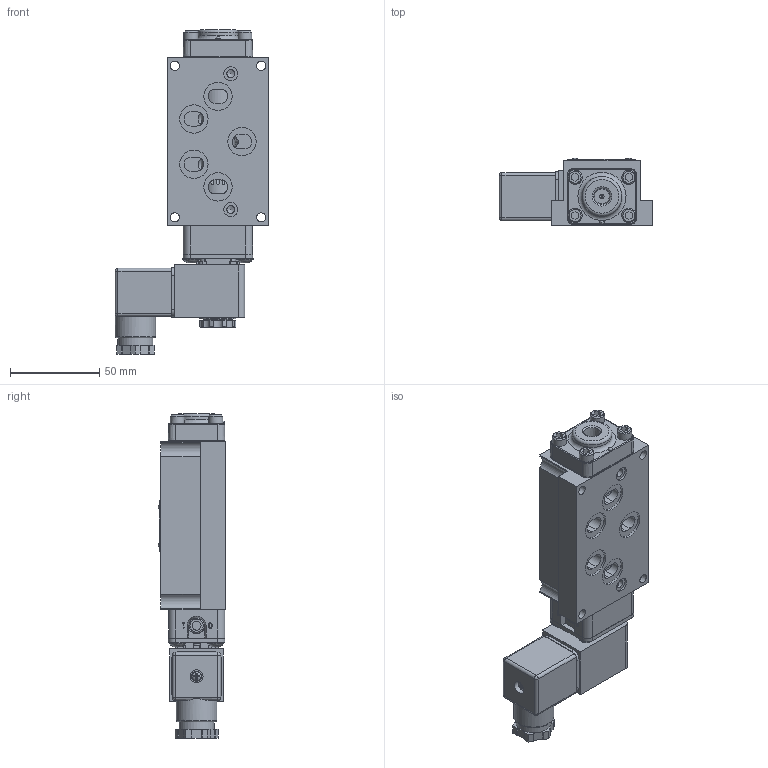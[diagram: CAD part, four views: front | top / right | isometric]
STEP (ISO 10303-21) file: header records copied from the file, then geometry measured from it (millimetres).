
FILE_DESCRIPTION(/* description */ (''),/* implementation_level */ '2;1');
FILE_NAME(/* name */ 'D:\Website Files\stp\Valves\Standard\ESR\ESR3PA.stp',/* time_stamp */ '2015-03-08T04:00:32-04:00',/* author */ ('RMcKenna'),/* organization */ (''),/* preprocessor_version */ 'ST-DEVELOPER v15.6',/* originating_system */ 'Autodesk Inventor 2015',/* authorisation */ '');
FILE_SCHEMA (('AUTOMOTIVE_DESIGN { 1 0 10303 214 3 1 1 }'));
Products named in the file (1): Part12
Bounding box: 86.27 x 37.86 x 182.05 mm (x, y, z)
Volume: 227826.1 mm3; surface area: 82852.4 mm2
Topology: 1 solids, 36 shells, 1722 faces, 4203 edges, 2672 vertices
Faces by surface type: plane 800, cylinder 461, cone 278, torus 126, bspline 45, sphere 12
Full cylindrical faces by diameter (mm): 1.016 x1, 1.3 x1, 1.397 x1, 1.5 x2, 1.651 x1, 2.007 x2, 2.032 x8, 2.07 x2, 2.261 x4, 2.35 x4, 2.362 x2, 2.381 x2, 2.5 x1, 2.778 x2, 2.8 x1, 2.819 x1, 2.845 x2, 3 x4, 3.048 x2, 3.175 x1, 3.4 x1, 3.683 x9, 3.861 x2, 4.064 x1, 4.191 x2, 4.305 x1, 4.366 x2, 4.369 x3, 4.826 x8, 4.953 x1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
Entity records: 52976 total; most frequent: CARTESIAN_POINT 12438, DIRECTION 8201, ORIENTED_EDGE 7542, EDGE_CURVE 3769, AXIS2_PLACEMENT_3D 3187, VERTEX_POINT 2543, EDGE_LOOP 2218, LINE 1827
